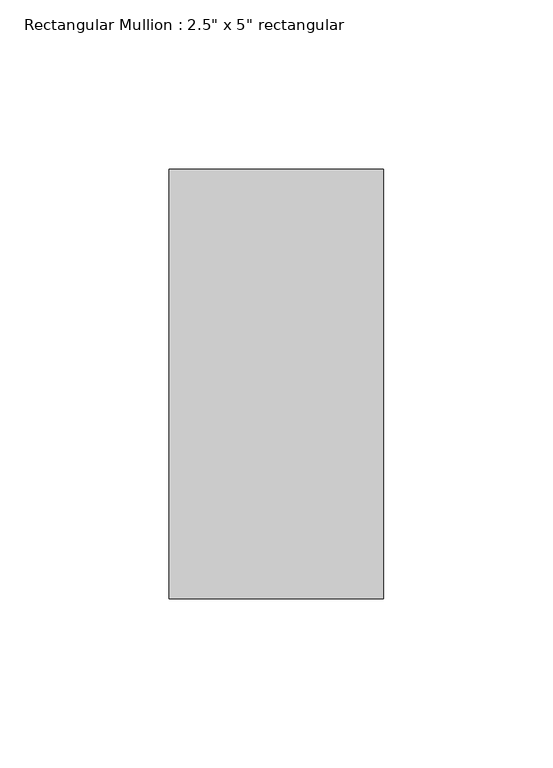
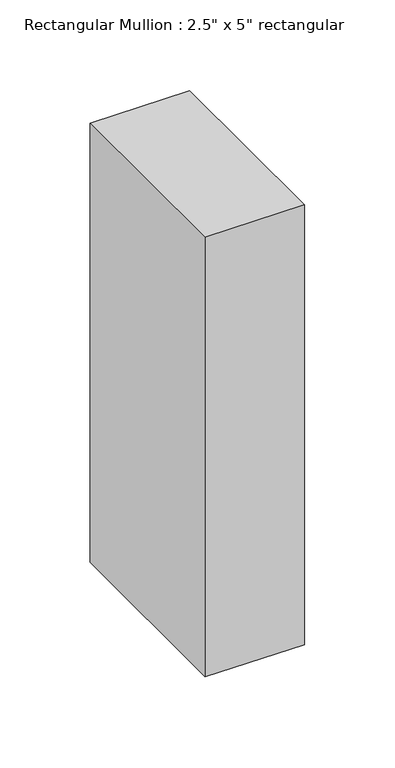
"""IFC4 building model written with IfcOpenShell, lengths in millimetres: member geometry."""

from ifc_helpers import new_model, si_unit, frame, origin, place, context, project, spatial, polyline, outline, extrude, source, transform, mapped, element, save


def member_cf3f750f(model_context):
    return source(origin(), model_context, "Body", "SweptSolid", [
        extrude(outline(polyline([(0.0, 0.0), (0.1577234, -63.5), (-296.3263629, -63.5), (-297.0205337, 0.0), (0.0, 0.0)])), frame((0.0, -63.5, 0.0), z_axis=(0.0, 1.0, 0.0), x_axis=(0.0, 0.0, 1.0)), (0.0, 0.0, 1.0), 127.0),
    ])


if __name__ == "__main__":
    model = new_model("IFC4")
    model_context = context("Model", 3, world=origin())
    ifc_project = project(units=[si_unit("LENGTHUNIT", "METRE", prefix="MILLI")], contexts=[model_context])
    site = spatial("IfcSite", under=ifc_project)
    building = spatial("IfcBuilding", under=site)
    placement = place(None, origin())
    member_shape = member_cf3f750f(model_context)
    element("IfcMember", 1, ObjectType="Rectangular Mullion : 2.5\" x 5\" rectangular", at=placement, inside=building, context=model_context, shape_type="MappedRepresentation", body=[
        mapped(member_shape, transform((0.0, 0.0, 0.0), x_axis=(1.0, 0.0, 0.0), y_axis=(0.0, 1.0, 0.0), z_axis=(0.0, 0.0, 1.0))),
    ])
    save(model, "model.ifc")
